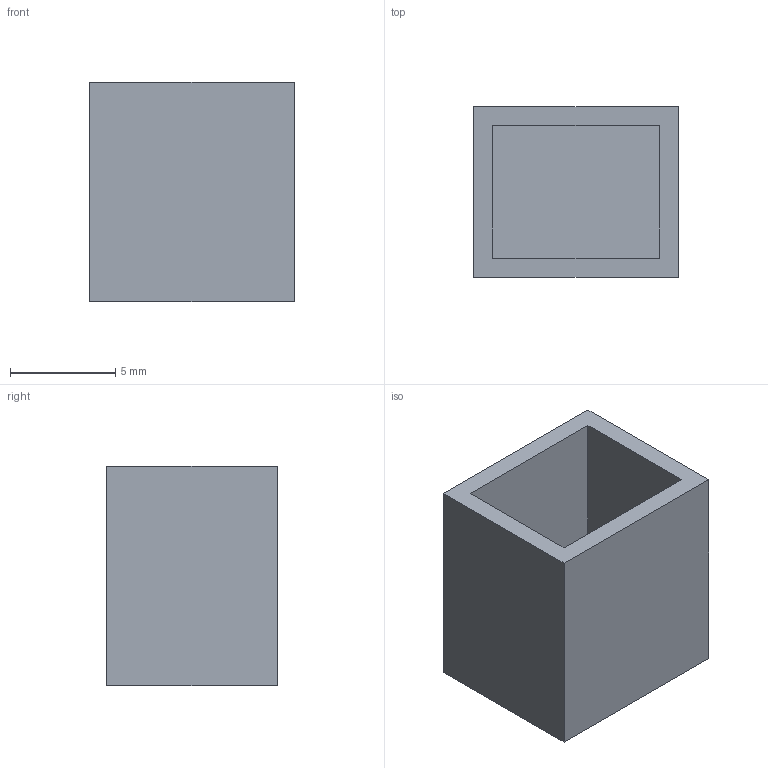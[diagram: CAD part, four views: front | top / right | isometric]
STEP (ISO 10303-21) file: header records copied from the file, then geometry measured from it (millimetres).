
FILE_DESCRIPTION(('Open CASCADE Model'),'2;1');
FILE_NAME('Open CASCADE Shape Model','2026-11-21T14:29:11',('Author'),( 'Open CASCADE'),'Open CASCADE STEP processor 7.9','Open CASCADE 7.9' ,'Unknown');
FILE_SCHEMA(('AUTOMOTIVE_DESIGN { 1 0 10303 214 1 1 1 1 }'));
Length unit declared in the file: millimetre
Products named in the file (2): JST_VH_2P; d439e862-e5e1-11f1-bb71-8157894c7c6c
Assembly tree (1 placements, depth 2):
  JST_VH_2P
    d439e862-e5e1-11f1-bb71-8157894c7c6c
Bounding box: 9.71 x 8.1 x 10.4 mm (x, y, z)
Volume: 474.1 mm3; surface area: 723.8 mm2
Topology: 1 solids, 1 shells, 11 faces, 24 edges, 16 vertices
Faces by surface type: plane 11
Entity records: 639 total; most frequent: CARTESIAN_POINT 109, DIRECTION 90, LINE 64, VECTOR 64, ORIENTED_EDGE 48, PCURVE 48, DEFINITIONAL_REPRESENTATION 48, EDGE_CURVE 24
